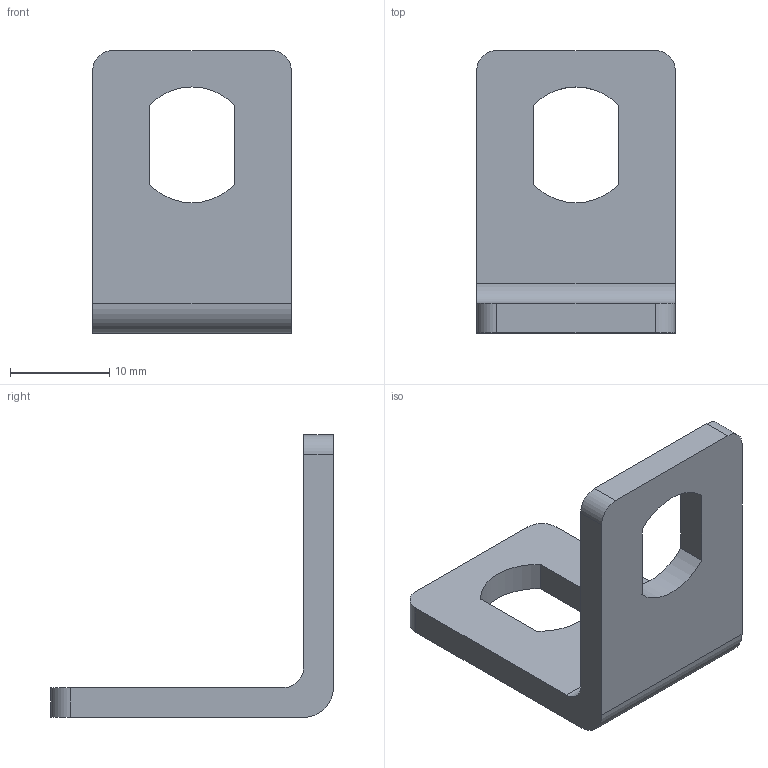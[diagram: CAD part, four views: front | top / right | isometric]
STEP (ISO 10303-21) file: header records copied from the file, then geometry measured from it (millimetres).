
FILE_DESCRIPTION (( 'STEP AP214' ), '1' );
FILE_NAME ('FBRY 20A.step', '2017-04-05T08:03:58', ( '' ), ( '' ), 'SwSTEP 2.0', 'SolidWorks 2015', '' );
FILE_SCHEMA (( 'AUTOMOTIVE_DESIGN' ));
Length unit declared in the file: millimetre
Products named in the file (1): FBRY 20A
Bounding box: 20 x 28.5 x 28.5 mm (x, y, z)
Volume: 2670.8 mm3; surface area: 2393.7 mm2
Topology: 1 solids, 1 shells, 23 faces, 63 edges, 42 vertices
Faces by surface type: plane 12, cylinder 11
Entity records: 781 total; most frequent: DIRECTION 133, CARTESIAN_POINT 129, ORIENTED_EDGE 126, EDGE_CURVE 63, AXIS2_PLACEMENT_3D 46, VERTEX_POINT 42, LINE 41, VECTOR 41
